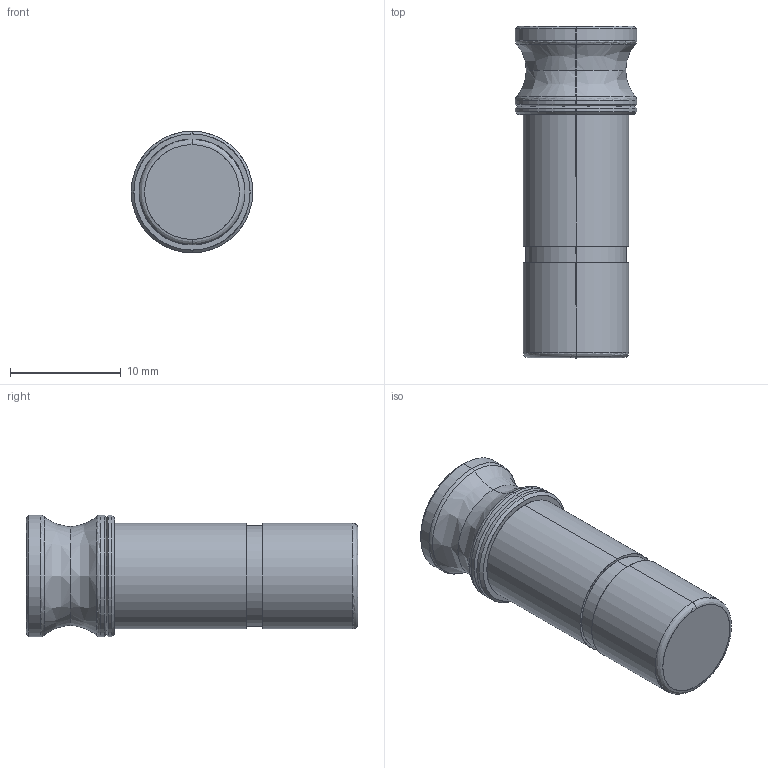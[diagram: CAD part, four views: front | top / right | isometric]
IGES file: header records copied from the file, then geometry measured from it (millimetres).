
Start section: SolidWorks IGES file using analytic representation for surfaces
Global section: file name: C:\Users\cad07\Desktop\step e igs 84000\84610\84610000104NB.IGS; native system: SolidWorks 2020; preprocessor: SolidWorks 2020; author: cad07; date: 230104.081318; units: millimetre
Bounding box: 11 x 30 x 11 mm (x, y, z)
Surface area: 1127.8 mm2 (no closed solid volume)
Topology: 0 solids, 0 shells, 35 faces, 376 edges, 376 vertices
Faces by surface type: revolution 20, bspline 15
